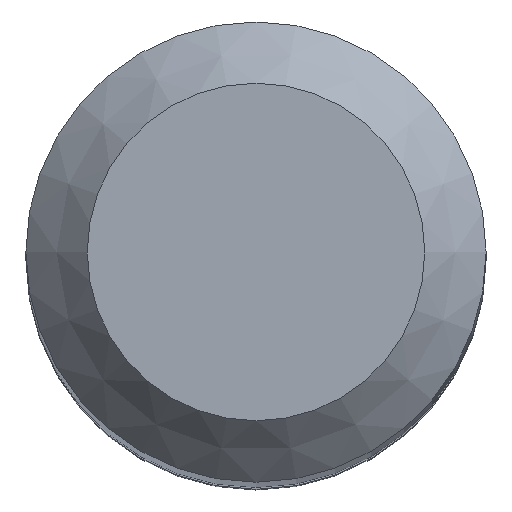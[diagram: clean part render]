
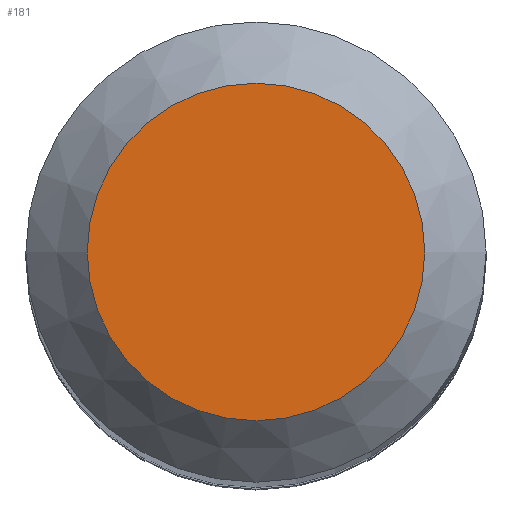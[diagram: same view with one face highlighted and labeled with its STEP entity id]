
A CAD part, top view. The second image highlights one B-rep face of the part: STEP entity #181.
In plain terms, the highlighted planar face has unit normal (0, 0, 1).
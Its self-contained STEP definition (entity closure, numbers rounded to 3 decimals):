
#165=CARTESIAN_POINT('',(0.,0.,60.));
#166=DIRECTION('',(0.,0.0,-1.0));
#167=DIRECTION('',(-1.0,0.0,0.));
#168=AXIS2_PLACEMENT_3D('',#165,#166,#167);
#169=PLANE('',#168);
#170=CARTESIAN_POINT('',(-2.2,0.,60.));
#171=VERTEX_POINT('',#170);
#172=CARTESIAN_POINT('',(0.,0.,60.));
#173=DIRECTION('',(0.,0.0,-1.0));
#174=DIRECTION('',(-1.0,0.0,0.));
#175=AXIS2_PLACEMENT_3D('',#172,#173,#174);
#176=CIRCLE('',#175,2.2);
#177=EDGE_CURVE('',#171,#171,#176,.T.);
#178=ORIENTED_EDGE('',*,*,#177,.F.);
#179=EDGE_LOOP('',(#178));
#180=FACE_OUTER_BOUND('',#179,.T.);
#181=ADVANCED_FACE('',(#180),#169,.F.);
